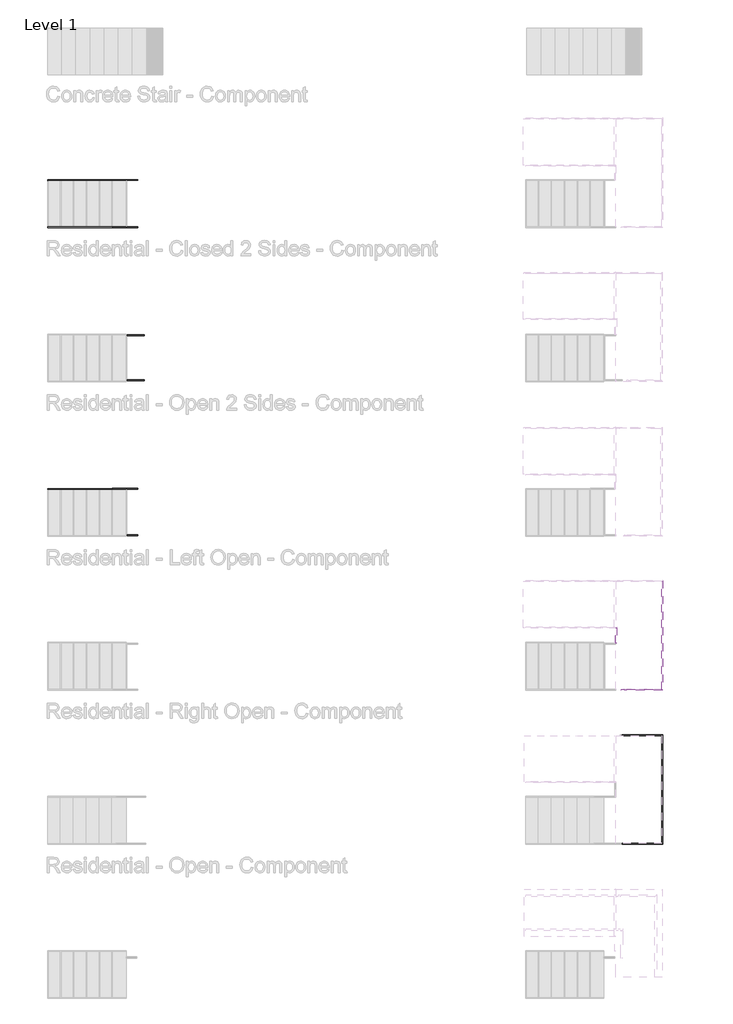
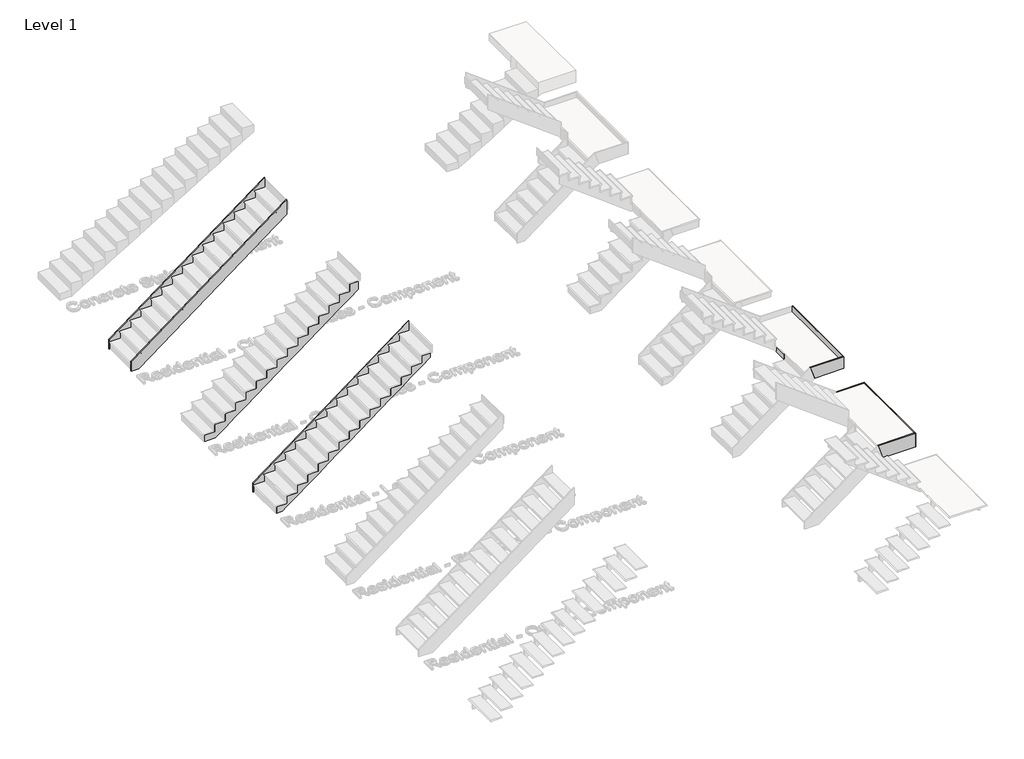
# One storey, part 8 of 15: 12 members.
"""IFC4 building model written with IfcOpenShell, lengths in millimetres."""

from ifc_helpers import new_model, si_unit, frame, origin, place, context, project, spatial, polyline, outline, extrude, faceted_brep, element, save

model = new_model("IFC4")

# Units and contexts
model_context = context("Model", 3, world=origin())
ifc_project = project(units=[si_unit("LENGTHUNIT", "METRE", prefix="MILLI")], contexts=[model_context])

# Site, building, storey
site = spatial("IfcSite", under=ifc_project)
building = spatial("IfcBuilding", under=site)
storey = spatial("IfcBuildingStorey", under=building, Name="Level 1", Elevation=0.0)

# Members
placement = place(None, origin())
element("IfcMember", 1, ObjectType="Stringer - Unassigned - 3/4\" Width (1)", at=placement, inside=storey, context=model_context, shape_type="SweptSolid", body=[
    extrude(outline(polyline([(242.8875, -27230.8481446), (0.0, -27230.8481446), (0.0, -27046.6981446), (2719.3875, -23420.8481446), (3100.3875, -23420.8481446), (242.8875, -27230.8481446)])), frame((0.0, 7918.3128094, 0.0), z_axis=(0.0, 1.0, 0.0), x_axis=(0.0, 0.0, 1.0)), (0.0, 0.0, 1.0), 19.05),
])
element("IfcMember", 2, ObjectType="Stringer - Unassigned - 3/4\" Width (1)", at=placement, inside=storey, context=model_context, shape_type="SweptSolid", body=[
    extrude(outline(polyline([(242.8875, -27230.8481446), (0.0, -27230.8481446), (0.0, -27046.6981446), (2719.3875, -23420.8481446), (3100.3875, -23420.8481446), (242.8875, -27230.8481446)])), frame((0.0, 6984.8628094, 0.0), z_axis=(0.0, 1.0, 0.0), x_axis=(0.0, 0.0, 1.0)), (0.0, 0.0, 1.0), 19.05),
])
element("IfcMember", 3, ObjectType="Stringer - Unassigned - 3/4\" Width (1)", at=placement, inside=storey, context=model_context, shape_type="Brep", body=[
    faceted_brep([(-27186.3981446, 4870.3128094, 0.0), (-26919.6981446, 4870.3128094, 0.0), (-26919.6981446, 4851.2628094, 0.0), (-27186.3981446, 4851.2628094, 0.0), (-23420.8481446, 4851.2628094, 2624.1375), (-23420.8481446, 4870.3128094, 2624.1375), (-23420.8481446, 4870.3128094, 2832.1), (-23420.8481446, 4851.2628094, 2832.1), (-26678.3981446, 4870.3128094, 180.975), (-26424.3981446, 4870.3128094, 371.475), (-26170.3981446, 4870.3128094, 561.975), (-25916.3981446, 4870.3128094, 752.475), (-25662.3981446, 4870.3128094, 942.975), (-25408.3981446, 4870.3128094, 1133.475), (-25154.3981446, 4870.3128094, 1323.975), (-24900.3981446, 4870.3128094, 1514.475), (-24646.3981446, 4870.3128094, 1704.975), (-24392.3981446, 4870.3128094, 1895.475), (-24138.3981446, 4870.3128094, 2085.975), (-23884.3981446, 4870.3128094, 2276.475), (-23630.3981446, 4870.3128094, 2466.975), (-27186.3981446, 4870.3128094, 157.1625), (-27175.8148113, 4870.3128094, 165.1), (-26932.3981446, 4870.3128094, 165.1), (-26932.3981446, 4870.3128094, 347.6625), (-26921.8148113, 4870.3128094, 355.6), (-26678.3981446, 4870.3128094, 355.6), (-26678.3981446, 4870.3128094, 538.1625), (-26667.8148113, 4870.3128094, 546.1), (-26424.3981446, 4870.3128094, 546.1), (-26424.3981446, 4870.3128094, 728.6625), (-26413.8148113, 4870.3128094, 736.6), (-26170.3981446, 4870.3128094, 736.6), (-26170.3981446, 4870.3128094, 919.1625), (-26159.8148113, 4870.3128094, 927.1), (-25916.3981446, 4870.3128094, 927.1), (-25916.3981446, 4870.3128094, 1109.6625), (-25905.8148113, 4870.3128094, 1117.6), (-25662.3981446, 4870.3128094, 1117.6), (-25662.3981446, 4870.3128094, 1300.1625), (-25651.8148113, 4870.3128094, 1308.1), (-25408.3981446, 4870.3128094, 1308.1), (-25408.3981446, 4870.3128094, 1490.6625), (-25397.8148113, 4870.3128094, 1498.6), (-25154.3981446, 4870.3128094, 1498.6), (-25154.3981446, 4870.3128094, 1681.1625), (-25143.8148113, 4870.3128094, 1689.1), (-24900.3981446, 4870.3128094, 1689.1), (-24900.3981446, 4870.3128094, 1871.6625), (-24889.8148113, 4870.3128094, 1879.6), (-24646.3981446, 4870.3128094, 1879.6), (-24646.3981446, 4870.3128094, 2062.1625), (-24635.8148113, 4870.3128094, 2070.1), (-24392.3981446, 4870.3128094, 2070.1), (-24392.3981446, 4870.3128094, 2252.6625), (-24381.8148113, 4870.3128094, 2260.6), (-24138.3981446, 4870.3128094, 2260.6), (-24138.3981446, 4870.3128094, 2443.1625), (-24127.8148113, 4870.3128094, 2451.1), (-23884.3981446, 4870.3128094, 2451.1), (-23884.3981446, 4870.3128094, 2633.6625), (-23873.8148113, 4870.3128094, 2641.6), (-23630.3981446, 4870.3128094, 2641.6), (-23630.3981446, 4870.3128094, 2824.1625), (-23619.8148113, 4870.3128094, 2832.1), (-23619.8148113, 4851.2628094, 2832.1), (-23630.3981446, 4851.2628094, 2824.1625), (-23630.3981446, 4851.2628094, 2641.6), (-23873.8148113, 4851.2628094, 2641.6), (-23884.3981446, 4851.2628094, 2633.6625), (-23884.3981446, 4851.2628094, 2451.1), (-24127.8148113, 4851.2628094, 2451.1), (-24138.3981446, 4851.2628094, 2443.1625), (-24138.3981446, 4851.2628094, 2260.6), (-24381.8148113, 4851.2628094, 2260.6), (-24392.3981446, 4851.2628094, 2252.6625), (-24392.3981446, 4851.2628094, 2070.1), (-24635.8148113, 4851.2628094, 2070.1), (-24646.3981446, 4851.2628094, 2062.1625), (-24646.3981446, 4851.2628094, 1879.6), (-24889.8148113, 4851.2628094, 1879.6), (-24900.3981446, 4851.2628094, 1871.6625), (-24900.3981446, 4851.2628094, 1689.1), (-25143.8148113, 4851.2628094, 1689.1), (-25154.3981446, 4851.2628094, 1681.1625), (-25154.3981446, 4851.2628094, 1498.6), (-25397.8148113, 4851.2628094, 1498.6), (-25408.3981446, 4851.2628094, 1490.6625), (-25408.3981446, 4851.2628094, 1308.1), (-25651.8148113, 4851.2628094, 1308.1), (-25662.3981446, 4851.2628094, 1300.1625), (-25662.3981446, 4851.2628094, 1117.6), (-25905.8148113, 4851.2628094, 1117.6), (-25916.3981446, 4851.2628094, 1109.6625), (-25916.3981446, 4851.2628094, 927.1), (-26159.8148113, 4851.2628094, 927.1), (-26170.3981446, 4851.2628094, 919.1625), (-26170.3981446, 4851.2628094, 736.6), (-26413.8148113, 4851.2628094, 736.6), (-26424.3981446, 4851.2628094, 728.6625), (-26424.3981446, 4851.2628094, 546.1), (-26667.8148113, 4851.2628094, 546.1), (-26678.3981446, 4851.2628094, 538.1625), (-26678.3981446, 4851.2628094, 355.6), (-26921.8148113, 4851.2628094, 355.6), (-26932.3981446, 4851.2628094, 347.6625), (-26932.3981446, 4851.2628094, 165.1), (-27175.8148113, 4851.2628094, 165.1), (-27186.3981446, 4851.2628094, 157.1625)], [[[0, 1, 2, 3]], [[4, 5, 6, 7]], [[5, 4, 2, 1, 8, 9, 10, 11, 12, 13, 14, 15, 16, 17, 18, 19, 20]], [[6, 5, 20, 19, 18, 17, 16, 15, 14, 13, 12, 11, 10, 9, 8, 1, 0, 21, 22, 23, 24, 25, 26, 27, 28, 29, 30, 31, 32, 33, 34, 35, 36, 37, 38, 39, 40, 41, 42, 43, 44, 45, 46, 47, 48, 49, 50, 51, 52, 53, 54, 55, 56, 57, 58, 59, 60, 61, 62, 63, 64]], [[7, 6, 64, 65]], [[4, 7, 65, 66, 67, 68, 69, 70, 71, 72, 73, 74, 75, 76, 77, 78, 79, 80, 81, 82, 83, 84, 85, 86, 87, 88, 89, 90, 91, 92, 93, 94, 95, 96, 97, 98, 99, 100, 101, 102, 103, 104, 105, 106, 107, 108, 3, 2]], [[108, 107, 22, 21]], [[105, 104, 25, 24]], [[102, 101, 28, 27]], [[99, 98, 31, 30]], [[96, 95, 34, 33]], [[93, 92, 37, 36]], [[90, 89, 40, 39]], [[87, 86, 43, 42]], [[84, 83, 46, 45]], [[81, 80, 49, 48]], [[78, 77, 52, 51]], [[75, 74, 55, 54]], [[72, 71, 58, 57]], [[69, 68, 61, 60]], [[66, 65, 64, 63]], [[106, 23, 22, 107]], [[108, 21, 0, 3]], [[103, 26, 25, 104]], [[23, 106, 105, 24]], [[100, 29, 28, 101]], [[26, 103, 102, 27]], [[97, 32, 31, 98]], [[29, 100, 99, 30]], [[94, 35, 34, 95]], [[32, 97, 96, 33]], [[91, 38, 37, 92]], [[35, 94, 93, 36]], [[88, 41, 40, 89]], [[38, 91, 90, 39]], [[85, 44, 43, 86]], [[41, 88, 87, 42]], [[82, 47, 46, 83]], [[44, 85, 84, 45]], [[79, 50, 49, 80]], [[47, 82, 81, 48]], [[76, 53, 52, 77]], [[50, 79, 78, 51]], [[73, 56, 55, 74]], [[53, 76, 75, 54]], [[70, 59, 58, 71]], [[56, 73, 72, 57]], [[67, 62, 61, 68]], [[59, 70, 69, 60]], [[62, 67, 66, 63]]]),
])
element("IfcMember", 4, ObjectType="Stringer - Unassigned - 3/4\" Width (1)", at=placement, inside=storey, context=model_context, shape_type="Brep", body=[
    faceted_brep([(-27186.3981446, 3974.9628094, 0.0), (-26919.6981446, 3974.9628094, 0.0), (-26919.6981446, 3955.9128094, 0.0), (-27186.3981446, 3955.9128094, 0.0), (-23420.8481446, 3955.9128094, 2624.1375), (-23420.8481446, 3974.9628094, 2624.1375), (-23420.8481446, 3974.9628094, 2832.1), (-23420.8481446, 3955.9128094, 2832.1), (-23630.3981446, 3955.9128094, 2466.975), (-23884.3981446, 3955.9128094, 2276.475), (-24138.3981446, 3955.9128094, 2085.975), (-24392.3981446, 3955.9128094, 1895.475), (-24646.3981446, 3955.9128094, 1704.975), (-24900.3981446, 3955.9128094, 1514.475), (-25154.3981446, 3955.9128094, 1323.975), (-25408.3981446, 3955.9128094, 1133.475), (-25662.3981446, 3955.9128094, 942.975), (-25916.3981446, 3955.9128094, 752.475), (-26170.3981446, 3955.9128094, 561.975), (-26424.3981446, 3955.9128094, 371.475), (-26678.3981446, 3955.9128094, 180.975), (-27186.3981446, 3974.9628094, 157.1625), (-27175.8148113, 3974.9628094, 165.1), (-26932.3981446, 3974.9628094, 165.1), (-26932.3981446, 3974.9628094, 347.6625), (-26921.8148113, 3974.9628094, 355.6), (-26678.3981446, 3974.9628094, 355.6), (-26678.3981446, 3974.9628094, 538.1625), (-26667.8148113, 3974.9628094, 546.1), (-26424.3981446, 3974.9628094, 546.1), (-26424.3981446, 3974.9628094, 728.6625), (-26413.8148113, 3974.9628094, 736.6), (-26170.3981446, 3974.9628094, 736.6), (-26170.3981446, 3974.9628094, 919.1625), (-26159.8148113, 3974.9628094, 927.1), (-25916.3981446, 3974.9628094, 927.1), (-25916.3981446, 3974.9628094, 1109.6625), (-25905.8148113, 3974.9628094, 1117.6), (-25662.3981446, 3974.9628094, 1117.6), (-25662.3981446, 3974.9628094, 1300.1625), (-25651.8148113, 3974.9628094, 1308.1), (-25408.3981446, 3974.9628094, 1308.1), (-25408.3981446, 3974.9628094, 1490.6625), (-25397.8148113, 3974.9628094, 1498.6), (-25154.3981446, 3974.9628094, 1498.6), (-25154.3981446, 3974.9628094, 1681.1625), (-25143.8148113, 3974.9628094, 1689.1), (-24900.3981446, 3974.9628094, 1689.1), (-24900.3981446, 3974.9628094, 1871.6625), (-24889.8148113, 3974.9628094, 1879.6), (-24646.3981446, 3974.9628094, 1879.6), (-24646.3981446, 3974.9628094, 2062.1625), (-24635.8148113, 3974.9628094, 2070.1), (-24392.3981446, 3974.9628094, 2070.1), (-24392.3981446, 3974.9628094, 2252.6625), (-24381.8148113, 3974.9628094, 2260.6), (-24138.3981446, 3974.9628094, 2260.6), (-24138.3981446, 3974.9628094, 2443.1625), (-24127.8148113, 3974.9628094, 2451.1), (-23884.3981446, 3974.9628094, 2451.1), (-23884.3981446, 3974.9628094, 2633.6625), (-23873.8148113, 3974.9628094, 2641.6), (-23630.3981446, 3974.9628094, 2641.6), (-23630.3981446, 3974.9628094, 2824.1625), (-23619.8148113, 3974.9628094, 2832.1), (-23619.8148113, 3955.9128094, 2832.1), (-23630.3981446, 3955.9128094, 2824.1625), (-23630.3981446, 3955.9128094, 2641.6), (-23873.8148113, 3955.9128094, 2641.6), (-23884.3981446, 3955.9128094, 2633.6625), (-23884.3981446, 3955.9128094, 2451.1), (-24127.8148113, 3955.9128094, 2451.1), (-24138.3981446, 3955.9128094, 2443.1625), (-24138.3981446, 3955.9128094, 2260.6), (-24381.8148113, 3955.9128094, 2260.6), (-24392.3981446, 3955.9128094, 2252.6625), (-24392.3981446, 3955.9128094, 2070.1), (-24635.8148113, 3955.9128094, 2070.1), (-24646.3981446, 3955.9128094, 2062.1625), (-24646.3981446, 3955.9128094, 1879.6), (-24889.8148113, 3955.9128094, 1879.6), (-24900.3981446, 3955.9128094, 1871.6625), (-24900.3981446, 3955.9128094, 1689.1), (-25143.8148113, 3955.9128094, 1689.1), (-25154.3981446, 3955.9128094, 1681.1625), (-25154.3981446, 3955.9128094, 1498.6), (-25397.8148113, 3955.9128094, 1498.6), (-25408.3981446, 3955.9128094, 1490.6625), (-25408.3981446, 3955.9128094, 1308.1), (-25651.8148113, 3955.9128094, 1308.1), (-25662.3981446, 3955.9128094, 1300.1625), (-25662.3981446, 3955.9128094, 1117.6), (-25905.8148113, 3955.9128094, 1117.6), (-25916.3981446, 3955.9128094, 1109.6625), (-25916.3981446, 3955.9128094, 927.1), (-26159.8148113, 3955.9128094, 927.1), (-26170.3981446, 3955.9128094, 919.1625), (-26170.3981446, 3955.9128094, 736.6), (-26413.8148113, 3955.9128094, 736.6), (-26424.3981446, 3955.9128094, 728.6625), (-26424.3981446, 3955.9128094, 546.1), (-26667.8148113, 3955.9128094, 546.1), (-26678.3981446, 3955.9128094, 538.1625), (-26678.3981446, 3955.9128094, 355.6), (-26921.8148113, 3955.9128094, 355.6), (-26932.3981446, 3955.9128094, 347.6625), (-26932.3981446, 3955.9128094, 165.1), (-27175.8148113, 3955.9128094, 165.1), (-27186.3981446, 3955.9128094, 157.1625)], [[[0, 1, 2, 3]], [[4, 5, 6, 7]], [[5, 4, 8, 9, 10, 11, 12, 13, 14, 15, 16, 17, 18, 19, 20, 2, 1]], [[6, 5, 1, 0, 21, 22, 23, 24, 25, 26, 27, 28, 29, 30, 31, 32, 33, 34, 35, 36, 37, 38, 39, 40, 41, 42, 43, 44, 45, 46, 47, 48, 49, 50, 51, 52, 53, 54, 55, 56, 57, 58, 59, 60, 61, 62, 63, 64]], [[7, 6, 64, 65]], [[4, 7, 65, 66, 67, 68, 69, 70, 71, 72, 73, 74, 75, 76, 77, 78, 79, 80, 81, 82, 83, 84, 85, 86, 87, 88, 89, 90, 91, 92, 93, 94, 95, 96, 97, 98, 99, 100, 101, 102, 103, 104, 105, 106, 107, 108, 3, 2, 20, 19, 18, 17, 16, 15, 14, 13, 12, 11, 10, 9, 8]], [[108, 107, 22, 21]], [[105, 104, 25, 24]], [[102, 101, 28, 27]], [[99, 98, 31, 30]], [[96, 95, 34, 33]], [[93, 92, 37, 36]], [[90, 89, 40, 39]], [[87, 86, 43, 42]], [[84, 83, 46, 45]], [[81, 80, 49, 48]], [[78, 77, 52, 51]], [[75, 74, 55, 54]], [[72, 71, 58, 57]], [[69, 68, 61, 60]], [[66, 65, 64, 63]], [[106, 23, 22, 107]], [[108, 21, 0, 3]], [[103, 26, 25, 104]], [[23, 106, 105, 24]], [[100, 29, 28, 101]], [[26, 103, 102, 27]], [[97, 32, 31, 98]], [[29, 100, 99, 30]], [[94, 35, 34, 95]], [[32, 97, 96, 33]], [[91, 38, 37, 92]], [[35, 94, 93, 36]], [[88, 41, 40, 89]], [[38, 91, 90, 39]], [[85, 44, 43, 86]], [[41, 88, 87, 42]], [[82, 47, 46, 83]], [[44, 85, 84, 45]], [[79, 50, 49, 80]], [[47, 82, 81, 48]], [[76, 53, 52, 77]], [[50, 79, 78, 51]], [[73, 56, 55, 74]], [[53, 76, 75, 54]], [[70, 59, 58, 71]], [[56, 73, 72, 57]], [[67, 62, 61, 68]], [[59, 70, 69, 60]], [[62, 67, 66, 63]]]),
])
element("IfcMember", 5, at=placement, inside=storey, context=model_context, shape_type="SweptSolid", body=[
    extrude(outline(polyline([(242.8875, -27230.8481446), (0.0, -27230.8481446), (0.0, -27046.6981446), (2719.3875, -23420.8481446), (3100.3875, -23420.8481446), (242.8875, -27230.8481446)])), frame((0.0, 1810.5568972, 0.0), z_axis=(0.0, 1.0, 0.0), x_axis=(0.0, 0.0, 1.0)), (0.0, 0.0, 1.0), 19.05),
])
element("IfcMember", 6, at=placement, inside=storey, context=model_context, shape_type="Brep", body=[
    faceted_brep([(-27186.3981446, 915.2068972, 0.0), (-27046.6981446, 915.2068972, 0.0), (-27046.6981446, 896.1568972, 0.0), (-27186.3981446, 896.1568972, 0.0), (-23420.8481446, 896.1568972, 2719.3875), (-23420.8481446, 915.2068972, 2719.3875), (-23420.8481446, 915.2068972, 2832.1), (-23420.8481446, 896.1568972, 2832.1), (-23630.3981446, 896.1568972, 2562.225), (-23884.3981446, 896.1568972, 2371.725), (-24138.3981446, 896.1568972, 2181.225), (-24392.3981446, 896.1568972, 1990.725), (-24646.3981446, 896.1568972, 1800.225), (-24900.3981446, 896.1568972, 1609.725), (-25154.3981446, 896.1568972, 1419.225), (-25408.3981446, 896.1568972, 1228.725), (-25662.3981446, 896.1568972, 1038.225), (-25916.3981446, 896.1568972, 847.725), (-26170.3981446, 896.1568972, 657.225), (-26424.3981446, 896.1568972, 466.725), (-26678.3981446, 896.1568972, 276.225), (-26932.3981446, 896.1568972, 85.725), (-27186.3981446, 915.2068972, 165.1), (-26932.3981446, 915.2068972, 165.1), (-26932.3981446, 915.2068972, 355.6), (-26678.3981446, 915.2068972, 355.6), (-26678.3981446, 915.2068972, 546.1), (-26424.3981446, 915.2068972, 546.1), (-26424.3981446, 915.2068972, 736.6), (-26170.3981446, 915.2068972, 736.6), (-26170.3981446, 915.2068972, 927.1), (-25916.3981446, 915.2068972, 927.1), (-25916.3981446, 915.2068972, 1117.6), (-25662.3981446, 915.2068972, 1117.6), (-25662.3981446, 915.2068972, 1308.1), (-25408.3981446, 915.2068972, 1308.1), (-25408.3981446, 915.2068972, 1498.6), (-25154.3981446, 915.2068972, 1498.6), (-25154.3981446, 915.2068972, 1689.1), (-24900.3981446, 915.2068972, 1689.1), (-24900.3981446, 915.2068972, 1879.6), (-24646.3981446, 915.2068972, 1879.6), (-24646.3981446, 915.2068972, 2070.1), (-24392.3981446, 915.2068972, 2070.1), (-24392.3981446, 915.2068972, 2260.6), (-24138.3981446, 915.2068972, 2260.6), (-24138.3981446, 915.2068972, 2451.1), (-23884.3981446, 915.2068972, 2451.1), (-23884.3981446, 915.2068972, 2641.6), (-23630.3981446, 915.2068972, 2641.6), (-23630.3981446, 915.2068972, 2832.1), (-23630.3981446, 896.1568972, 2832.1), (-23630.3981446, 896.1568972, 2641.6), (-23884.3981446, 896.1568972, 2641.6), (-23884.3981446, 896.1568972, 2451.1), (-24138.3981446, 896.1568972, 2451.1), (-24138.3981446, 896.1568972, 2260.6), (-24392.3981446, 896.1568972, 2260.6), (-24392.3981446, 896.1568972, 2070.1), (-24646.3981446, 896.1568972, 2070.1), (-24646.3981446, 896.1568972, 1879.6), (-24900.3981446, 896.1568972, 1879.6), (-24900.3981446, 896.1568972, 1689.1), (-25154.3981446, 896.1568972, 1689.1), (-25154.3981446, 896.1568972, 1498.6), (-25408.3981446, 896.1568972, 1498.6), (-25408.3981446, 896.1568972, 1308.1), (-25662.3981446, 896.1568972, 1308.1), (-25662.3981446, 896.1568972, 1117.6), (-25916.3981446, 896.1568972, 1117.6), (-25916.3981446, 896.1568972, 927.1), (-26170.3981446, 896.1568972, 927.1), (-26170.3981446, 896.1568972, 736.6), (-26424.3981446, 896.1568972, 736.6), (-26424.3981446, 896.1568972, 546.1), (-26678.3981446, 896.1568972, 546.1), (-26678.3981446, 896.1568972, 355.6), (-26932.3981446, 896.1568972, 355.6), (-26932.3981446, 896.1568972, 165.1), (-27186.3981446, 896.1568972, 165.1)], [[[0, 1, 2, 3]], [[4, 5, 6, 7]], [[5, 4, 8, 9, 10, 11, 12, 13, 14, 15, 16, 17, 18, 19, 20, 21, 2, 1]], [[6, 5, 1, 0, 22, 23, 24, 25, 26, 27, 28, 29, 30, 31, 32, 33, 34, 35, 36, 37, 38, 39, 40, 41, 42, 43, 44, 45, 46, 47, 48, 49, 50]], [[50, 51, 7, 6]], [[4, 7, 51, 52, 53, 54, 55, 56, 57, 58, 59, 60, 61, 62, 63, 64, 65, 66, 67, 68, 69, 70, 71, 72, 73, 74, 75, 76, 77, 78, 79, 3, 2, 21, 20, 19, 18, 17, 16, 15, 14, 13, 12, 11, 10, 9, 8]], [[22, 79, 78, 23]], [[79, 22, 0, 3]], [[24, 77, 76, 25]], [[23, 78, 77, 24]], [[26, 75, 74, 27]], [[25, 76, 75, 26]], [[28, 73, 72, 29]], [[27, 74, 73, 28]], [[30, 71, 70, 31]], [[29, 72, 71, 30]], [[32, 69, 68, 33]], [[31, 70, 69, 32]], [[34, 67, 66, 35]], [[33, 68, 67, 34]], [[36, 65, 64, 37]], [[35, 66, 65, 36]], [[38, 63, 62, 39]], [[37, 64, 63, 38]], [[40, 61, 60, 41]], [[39, 62, 61, 40]], [[42, 59, 58, 43]], [[41, 60, 59, 42]], [[44, 57, 56, 45]], [[43, 58, 57, 44]], [[46, 55, 54, 47]], [[45, 56, 55, 46]], [[48, 53, 52, 49]], [[47, 54, 53, 48]], [[49, 52, 51, 50]]]),
])
element("IfcMember", 7, at=placement, inside=storey, context=model_context, shape_type="SweptSolid", body=[
    extrude(outline(polyline([(-16004.0481446, -920.8871906), (-15984.9981446, -920.8871906), (-15984.9981446, -1225.6871906), (-16004.0481446, -1225.6871906), (-16004.0481446, -920.8871906)])), frame((0.0, 0.0, 1358.9), z_axis=(0.0, 0.0, 1.0), x_axis=(1.0, 0.0, 0.0)), (0.0, 0.0, 1.0), 139.7),
])
element("IfcMember", 8, at=placement, inside=storey, context=model_context, shape_type="Brep", body=[
    faceted_brep([(-15887.631478, -2140.0871906, 1663.7), (-15887.631478, -2159.1371906, 1663.7), (-15070.5981446, -2159.1371906, 1663.7), (-15089.6481446, -2140.0871906, 1663.7), (-15786.031478, -2140.0871906, 1358.9), (-15089.6481446, -2140.0871906, 1358.9), (-15786.031478, -2159.1371906, 1358.9), (-15070.5981446, -2159.1371906, 1358.9)], [[[0, 1, 2, 3]], [[4, 0, 3, 5]], [[6, 4, 5, 7]], [[1, 6, 7, 2]], [[1, 0, 4, 6]], [[2, 7, 5, 3]]]),
])
element("IfcMember", 9, at=placement, inside=storey, context=model_context, shape_type="SweptSolid", body=[
    extrude(outline(polyline([(-15070.5981446, -2159.1371906), (-15089.6481446, -2140.0871906), (-15089.6481446, -6.4871906), (-15070.5981446, 12.5628094), (-15070.5981446, -2159.1371906)])), frame((0.0, 0.0, 1358.9), z_axis=(0.0, 0.0, 1.0), x_axis=(1.0, 0.0, 0.0)), (0.0, 0.0, 1.0), 304.8),
])
element("IfcMember", 10, at=placement, inside=storey, context=model_context, shape_type="Brep", body=[
    faceted_brep([(-15991.3481446, -5188.0871906, 1533.525), (-15991.3481446, -5207.1371906, 1533.525), (-15070.5981446, -5207.1371906, 1533.525), (-15089.6481446, -5188.0871906, 1533.525), (-15872.8148113, -5188.0871906, 1177.925), (-15089.6481446, -5188.0871906, 1177.925), (-15872.8148113, -5207.1371906, 1177.925), (-15070.5981446, -5207.1371906, 1177.925)], [[[0, 1, 2, 3]], [[4, 0, 3, 5]], [[6, 4, 5, 7]], [[1, 6, 7, 2]], [[1, 0, 4, 6]], [[2, 7, 5, 3]]]),
])
element("IfcMember", 11, at=placement, inside=storey, context=model_context, shape_type="SweptSolid", body=[
    extrude(outline(polyline([(-15070.5981446, -5207.1371906), (-15089.6481446, -5188.0871906), (-15089.6481446, -3054.4871906), (-15070.5981446, -3035.4371906), (-15070.5981446, -5207.1371906)])), frame((0.0, 0.0, 1177.925), z_axis=(0.0, 0.0, 1.0), x_axis=(1.0, 0.0, 0.0)), (0.0, 0.0, 1.0), 355.6),
])
element("IfcMember", 12, at=placement, inside=storey, context=model_context, shape_type="Brep", body=[
    faceted_brep([(-15089.6481446, -3054.4871906, 1533.525), (-15070.5981446, -3035.4371906, 1533.525), (-15762.7481446, -3035.4371906, 1533.525), (-15762.7481446, -3054.4871906, 1533.525), (-15089.6481446, -3054.4871906, 1177.925), (-15881.281478, -3054.4871906, 1177.925), (-15070.5981446, -3035.4371906, 1177.925), (-15881.281478, -3035.4371906, 1177.925)], [[[0, 1, 2, 3]], [[4, 0, 3, 5]], [[6, 4, 5, 7]], [[1, 6, 7, 2]], [[1, 0, 4, 6]], [[2, 7, 5, 3]]]),
])

save(model, "model.ifc")
